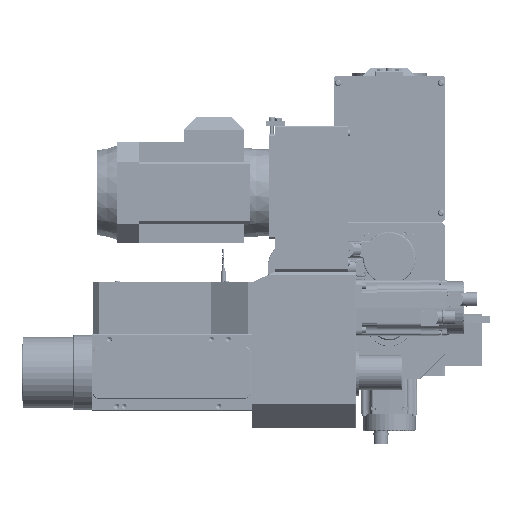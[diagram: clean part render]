
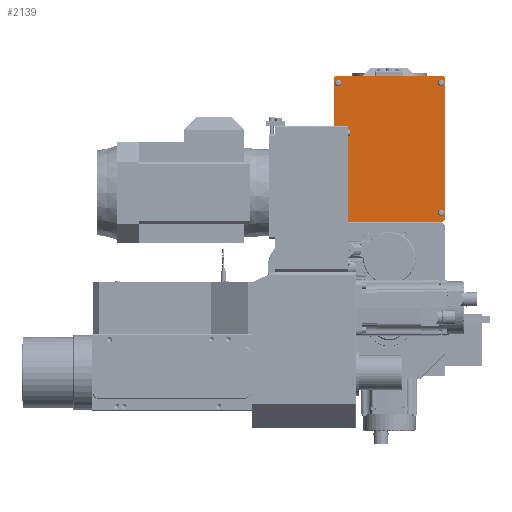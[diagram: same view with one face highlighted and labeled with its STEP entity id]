
A CAD part, front view. The second image highlights one B-rep face of the part: STEP entity #2139.
In plain terms, the highlighted planar face has unit normal (0, -1, 0) as drawn and (0, 0, 1) by its records, which use the part's own axes.
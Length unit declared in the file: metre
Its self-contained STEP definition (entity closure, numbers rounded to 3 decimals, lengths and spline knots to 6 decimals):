
#2139 = ADVANCED_FACE( '', ( #3670 ), #3671, .T. );
#3670 = FACE_OUTER_BOUND( '', #7266, .T. );
#3671 = PLANE( '', #7267 );
#7266 = EDGE_LOOP( '', ( #12110, #12111, #12112, #12113, #12114, #12115, #12116, #12117 ) );
#7267 = AXIS2_PLACEMENT_3D( '', #12118, #12119, #12120 );
#12110 = ORIENTED_EDGE( '', *, *, #22411, .F. );
#12111 = ORIENTED_EDGE( '', *, *, #22422, .F. );
#12112 = ORIENTED_EDGE( '', *, *, #22423, .F. );
#12113 = ORIENTED_EDGE( '', *, *, #22424, .F. );
#12114 = ORIENTED_EDGE( '', *, *, #22415, .F. );
#12115 = ORIENTED_EDGE( '', *, *, #22421, .F. );
#12116 = ORIENTED_EDGE( '', *, *, #22425, .F. );
#12117 = ORIENTED_EDGE( '', *, *, #22426, .F. );
#12118 = CARTESIAN_POINT( '', ( -0.0005, 0.0905, 0.006 ) );
#12119 = DIRECTION( '', ( 0., 0., 1. ) );
#12120 = DIRECTION( '', ( 1., 0., 0. ) );
#22411 = EDGE_CURVE( '', #25666, #25667, #25668, .T. );
#22415 = EDGE_CURVE( '', #25674, #25675, #25676, .T. );
#22421 = EDGE_CURVE( '', #25684, #25674, #25686, .T. );
#22422 = EDGE_CURVE( '', #25687, #25666, #25688, .T. );
#22423 = EDGE_CURVE( '', #25689, #25687, #25690, .T. );
#22424 = EDGE_CURVE( '', #25675, #25689, #25691, .T. );
#22425 = EDGE_CURVE( '', #25692, #25684, #25693, .T. );
#22426 = EDGE_CURVE( '', #25667, #25692, #25694, .T. );
#25666 = VERTEX_POINT( '', #31080 );
#25667 = VERTEX_POINT( '', #31081 );
#25668 = LINE( '', #31082, #31083 );
#25674 = VERTEX_POINT( '', #31092 );
#25675 = VERTEX_POINT( '', #31093 );
#25676 = LINE( '', #31094, #31095 );
#25684 = VERTEX_POINT( '', #31107 );
#25686 = LINE( '', #31110, #31111 );
#25687 = VERTEX_POINT( '', #31112 );
#25688 = LINE( '', #31113, #31114 );
#25689 = VERTEX_POINT( '', #31115 );
#25690 = LINE( '', #31116, #31117 );
#25691 = LINE( '', #31118, #31119 );
#25692 = VERTEX_POINT( '', #31120 );
#25693 = LINE( '', #31121, #31122 );
#25694 = LINE( '', #31123, #31124 );
#31080 = CARTESIAN_POINT( '', ( 0.0875, 0.2085, 0.006 ) );
#31081 = CARTESIAN_POINT( '', ( 0.0895, 0.2065, 0.006 ) );
#31082 = CARTESIAN_POINT( '', ( 0.0955, 0.2005, 0.006 ) );
#31083 = VECTOR( '', #41134, 1. );
#31092 = CARTESIAN_POINT( '', ( -0.0855, -0.0275, 0.006 ) );
#31093 = CARTESIAN_POINT( '', ( -0.0905, -0.0225, 0.006 ) );
#31094 = CARTESIAN_POINT( '', ( -0.095, -0.018, 0.006 ) );
#31095 = VECTOR( '', #41138, 1. );
#31107 = CARTESIAN_POINT( '', ( 0.0845, -0.0275, 0.006 ) );
#31110 = CARTESIAN_POINT( '', ( -0.0905, -0.0275, 0.006 ) );
#31111 = VECTOR( '', #41144, 1. );
#31112 = CARTESIAN_POINT( '', ( -0.0885, 0.2085, 0.006 ) );
#31113 = CARTESIAN_POINT( '', ( 0.0895, 0.2085, 0.006 ) );
#31114 = VECTOR( '', #41145, 1. );
#31115 = CARTESIAN_POINT( '', ( -0.0905, 0.2065, 0.006 ) );
#31116 = CARTESIAN_POINT( '', ( -0.0965, 0.2005, 0.006 ) );
#31117 = VECTOR( '', #41146, 1. );
#31118 = CARTESIAN_POINT( '', ( -0.0905, 0.2085, 0.006 ) );
#31119 = VECTOR( '', #41147, 1. );
#31120 = CARTESIAN_POINT( '', ( 0.0895, -0.0225, 0.006 ) );
#31121 = CARTESIAN_POINT( '', ( 0.094, -0.018, 0.006 ) );
#31122 = VECTOR( '', #41148, 1. );
#31123 = CARTESIAN_POINT( '', ( 0.0895, -0.0275, 0.006 ) );
#31124 = VECTOR( '', #41149, 1. );
#41134 = DIRECTION( '', ( 0.707, -0.707, 0. ) );
#41138 = DIRECTION( '', ( -0.707, 0.707, 0. ) );
#41144 = DIRECTION( '', ( -1., 0., 0. ) );
#41145 = DIRECTION( '', ( 1., 0., 0. ) );
#41146 = DIRECTION( '', ( 0.707, 0.707, 0. ) );
#41147 = DIRECTION( '', ( 0., 1., 0. ) );
#41148 = DIRECTION( '', ( -0.707, -0.707, 0. ) );
#41149 = DIRECTION( '', ( 0., -1., 0. ) );
